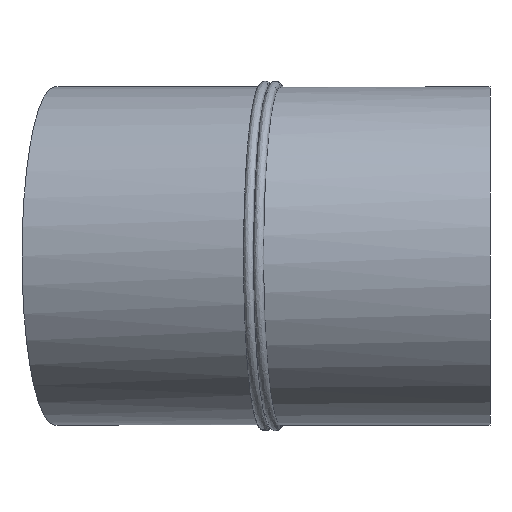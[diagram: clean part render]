
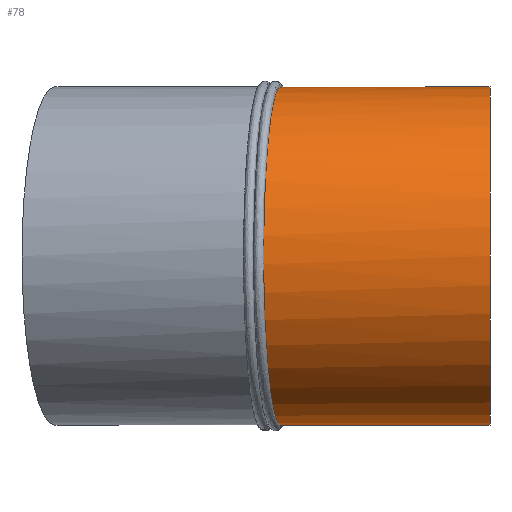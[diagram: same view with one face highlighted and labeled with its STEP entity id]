
A CAD part, left-side view. The second image highlights one B-rep face of the part: STEP entity #78.
In plain terms, the highlighted cylindrical face has radius 250 mm (diameter 500 mm), a full revolution.
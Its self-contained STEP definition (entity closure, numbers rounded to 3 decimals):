
#32=B_SPLINE_CURVE_WITH_KNOTS('',3,(#131,#132,#133,#134,#135,#136,#137,
#138,#139,#140,#141,#142,#143,#144,#145,#146,#147,#148,#149,#150,#151,#152,
#153,#154,#155,#156,#157,#158,#159,#160,#161,#162,#163,#164,#165,#166,#167,
#168,#169,#170,#171,#172,#173,#174,#175,#176,#177,#178,#179,#180,#181,#182,
#183,#184,#185,#186,#187,#188,#189,#190,#191,#192,#193,#194,#195,#196,#197,
#198,#199,#200,#201,#202,#203,#204,#205,#206,#207,#208,#209,#210,#211,#212,
#213,#214,#215,#216,#217,#218,#219,#220,#221,#222,#223,#224,#225),
 .UNSPECIFIED.,.T.,.F.,(1,1,1,1,1,1,1,1,1,1,1,1,1,1,1,1,1,1,1,1,1,1,1,1,
1,1,1,1,1,1,1,1,1,1,1,1,1,1,1,1,1,1,1,1,1,1,1,1,1,1,1,1,1,1,1,1,1,1,1,1,
1,1,1,1,1,1,1,1,1,1,1,1,1,1,1,1,1,1,1,1,1,1,1,1,1,1,1,1,1,1,1,1,1,1,1,1,
1,1,1),(-0.074,-0.049,-0.025,0.,
0.025,0.049,0.074,0.086,
0.099,0.124,0.148,0.173,
0.198,0.222,0.235,0.247,
0.259,0.272,0.296,0.321,
0.334,0.346,0.358,0.371,
0.383,0.395,0.42,0.445,
0.457,0.469,0.494,0.519,
0.531,0.544,0.568,0.593,
0.618,0.63,0.642,0.655,
0.667,0.692,0.716,0.741,
0.766,0.778,0.791,0.803,
0.815,0.84,0.865,0.877,
0.889,0.902,0.914,0.926,
0.939,0.951,0.964,0.988,
1.001,1.013,1.038,1.062,1.075,
1.087,1.112,1.136,1.161,1.174,
1.186,1.198,1.211,1.223,1.235,
1.26,1.285,1.309,1.322,1.334,
1.346,1.359,1.371,1.384,1.408,
1.421,1.433,1.445,1.458,1.47,
1.482,1.495,1.507,1.532,1.556,
1.581,1.606,1.631,1.655),
 .UNSPECIFIED.);
#34=ORIENTED_EDGE('',*,*,#44,.T.);
#35=ORIENTED_EDGE('',*,*,#45,.F.);
#44=EDGE_CURVE('',#49,#49,#54,.T.);
#45=EDGE_CURVE('',#50,#50,#32,.T.);
#49=VERTEX_POINT('',#130);
#50=VERTEX_POINT('',#226);
#54=CIRCLE('',#99,250.);
#56=EDGE_LOOP('',(#34));
#57=EDGE_LOOP('',(#35));
#66=FACE_BOUND('',#56,.T.);
#67=FACE_BOUND('',#57,.T.);
#76=CYLINDRICAL_SURFACE('',#98,250.);
#78=ADVANCED_FACE('',(#66,#67),#76,.T.);
#98=AXIS2_PLACEMENT_3D('',#128,#109,#110);
#99=AXIS2_PLACEMENT_3D('',#129,#111,#112);
#109=DIRECTION('',(0.,-1.,0.));
#110=DIRECTION('',(0.,0.,-1.));
#111=DIRECTION('',(0.,1.,0.));
#112=DIRECTION('',(1.,0.,0.));
#128=CARTESIAN_POINT('',(0.,650.,0.));
#129=CARTESIAN_POINT('',(0.,0.,0.));
#130=CARTESIAN_POINT('',(250.,0.,0.));
#131=CARTESIAN_POINT('',(24.475,307.199,-249.195));
#132=CARTESIAN_POINT('',(0.035,309.618,-250.404));
#133=CARTESIAN_POINT('',(-24.616,312.062,-249.189));
#134=CARTESIAN_POINT('',(-48.768,314.459,-245.601));
#135=CARTESIAN_POINT('',(-68.575,316.427,-240.656));
#136=CARTESIAN_POINT('',(-84.16,317.976,-235.515));
#137=CARTESIAN_POINT('',(-99.408,319.493,-229.642));
#138=CARTESIAN_POINT('',(-117.974,321.342,-220.87));
#139=CARTESIAN_POINT('',(-139.034,323.441,-208.259));
#140=CARTESIAN_POINT('',(-158.853,325.418,-193.562));
#141=CARTESIAN_POINT('',(-176.89,327.219,-177.218));
#142=CARTESIAN_POINT('',(-190.529,328.582,-162.217));
#143=CARTESIAN_POINT('',(-200.579,329.586,-149.393));
#144=CARTESIAN_POINT('',(-207.697,330.298,-139.33));
#145=CARTESIAN_POINT('',(-214.308,330.96,-128.929));
#146=CARTESIAN_POINT('',(-222.411,331.771,-114.679));
#147=CARTESIAN_POINT('',(-231.247,332.655,-96.06));
#148=CARTESIAN_POINT('',(-238.174,333.349,-76.758));
#149=CARTESIAN_POINT('',(-242.58,333.79,-60.877));
#150=CARTESIAN_POINT('',(-245.283,334.061,-48.854));
#151=CARTESIAN_POINT('',(-247.391,334.272,-36.723));
#152=CARTESIAN_POINT('',(-248.902,334.424,-24.464));
#153=CARTESIAN_POINT('',(-249.806,334.514,-12.153));
#154=CARTESIAN_POINT('',(-250.2,334.554,4.256));
#155=CARTESIAN_POINT('',(-249.169,334.451,24.857));
#156=CARTESIAN_POINT('',(-246.131,334.146,45.146));
#157=CARTESIAN_POINT('',(-242.491,333.781,61.228));
#158=CARTESIAN_POINT('',(-238.092,333.341,76.998));
#159=CARTESIAN_POINT('',(-231.211,332.651,96.12));
#160=CARTESIAN_POINT('',(-222.512,331.781,114.475));
#161=CARTESIAN_POINT('',(-214.454,330.974,128.687));
#162=CARTESIAN_POINT('',(-205.634,330.092,142.594));
#163=CARTESIAN_POINT('',(-193.417,328.87,159.035));
#164=CARTESIAN_POINT('',(-176.815,327.211,177.31));
#165=CARTESIAN_POINT('',(-161.625,325.694,191.037));
#166=CARTESIAN_POINT('',(-148.655,324.4,201.128));
#167=CARTESIAN_POINT('',(-138.607,323.398,208.178));
#168=CARTESIAN_POINT('',(-128.225,322.363,214.73));
#169=CARTESIAN_POINT('',(-113.918,320.938,222.801));
#170=CARTESIAN_POINT('',(-95.428,319.097,231.507));
#171=CARTESIAN_POINT('',(-72.202,316.787,239.764));
#172=CARTESIAN_POINT('',(-48.618,314.444,245.625));
#173=CARTESIAN_POINT('',(-28.606,312.458,248.59));
#174=CARTESIAN_POINT('',(-12.401,310.851,249.792));
#175=CARTESIAN_POINT('',(-0.116,309.634,250.101));
#176=CARTESIAN_POINT('',(12.16,308.418,249.804));
#177=CARTESIAN_POINT('',(28.45,306.806,248.612));
#178=CARTESIAN_POINT('',(48.757,304.797,245.609));
#179=CARTESIAN_POINT('',(68.571,302.84,240.656));
#180=CARTESIAN_POINT('',(84.159,301.301,235.516));
#181=CARTESIAN_POINT('',(95.612,300.171,231.102));
#182=CARTESIAN_POINT('',(106.826,299.066,226.138));
#183=CARTESIAN_POINT('',(117.815,297.983,220.613));
#184=CARTESIAN_POINT('',(128.522,296.928,214.552));
#185=CARTESIAN_POINT('',(138.891,295.907,207.989));
#186=CARTESIAN_POINT('',(148.938,294.919,200.918));
#187=CARTESIAN_POINT('',(161.898,293.644,190.806));
#188=CARTESIAN_POINT('',(174.02,292.453,179.819));
#189=CARTESIAN_POINT('',(185.363,291.338,167.903));
#190=CARTESIAN_POINT('',(196.046,290.289,155.507));
#191=CARTESIAN_POINT('',(208.137,289.103,139.198));
#192=CARTESIAN_POINT('',(218.589,288.078,121.798));
#193=CARTESIAN_POINT('',(225.948,287.356,107.23));
#194=CARTESIAN_POINT('',(232.64,286.7,92.18));
#195=CARTESIAN_POINT('',(239.568,286.022,72.869));
#196=CARTESIAN_POINT('',(245.59,285.432,48.874));
#197=CARTESIAN_POINT('',(248.6,285.137,28.574));
#198=CARTESIAN_POINT('',(249.807,285.019,12.131));
#199=CARTESIAN_POINT('',(250.101,284.99,-0.185));
#200=CARTESIAN_POINT('',(249.789,285.021,-12.498));
#201=CARTESIAN_POINT('',(248.867,285.111,-24.824));
#202=CARTESIAN_POINT('',(247.339,285.261,-37.063));
#203=CARTESIAN_POINT('',(244.51,285.538,-53.229));
#204=CARTESIAN_POINT('',(239.454,286.033,-73.238));
#205=CARTESIAN_POINT('',(231.174,286.844,-96.207));
#206=CARTESIAN_POINT('',(222.474,287.697,-114.547));
#207=CARTESIAN_POINT('',(214.432,288.485,-128.72));
#208=CARTESIAN_POINT('',(207.838,289.132,-139.12));
#209=CARTESIAN_POINT('',(200.727,289.83,-149.195));
#210=CARTESIAN_POINT('',(193.155,290.573,-158.875));
#211=CARTESIAN_POINT('',(185.108,291.363,-168.183));
#212=CARTESIAN_POINT('',(173.751,292.479,-180.079));
#213=CARTESIAN_POINT('',(161.609,293.672,-191.051));
#214=CARTESIAN_POINT('',(148.637,294.948,-201.141));
#215=CARTESIAN_POINT('',(138.575,295.938,-208.199));
#216=CARTESIAN_POINT('',(128.196,296.96,-214.746));
#217=CARTESIAN_POINT('',(117.484,298.015,-220.789));
#218=CARTESIAN_POINT('',(106.483,299.1,-226.3));
#219=CARTESIAN_POINT('',(95.26,300.206,-231.248));
#220=CARTESIAN_POINT('',(83.801,301.337,-235.644));
#221=CARTESIAN_POINT('',(68.205,302.876,-240.76));
#222=CARTESIAN_POINT('',(48.497,304.823,-245.651));
#223=CARTESIAN_POINT('',(24.475,307.199,-249.195));
#224=CARTESIAN_POINT('',(0.035,309.618,-250.404));
#225=CARTESIAN_POINT('',(-24.616,312.062,-249.189));
#226=CARTESIAN_POINT('',(0.,309.622,-250.));
